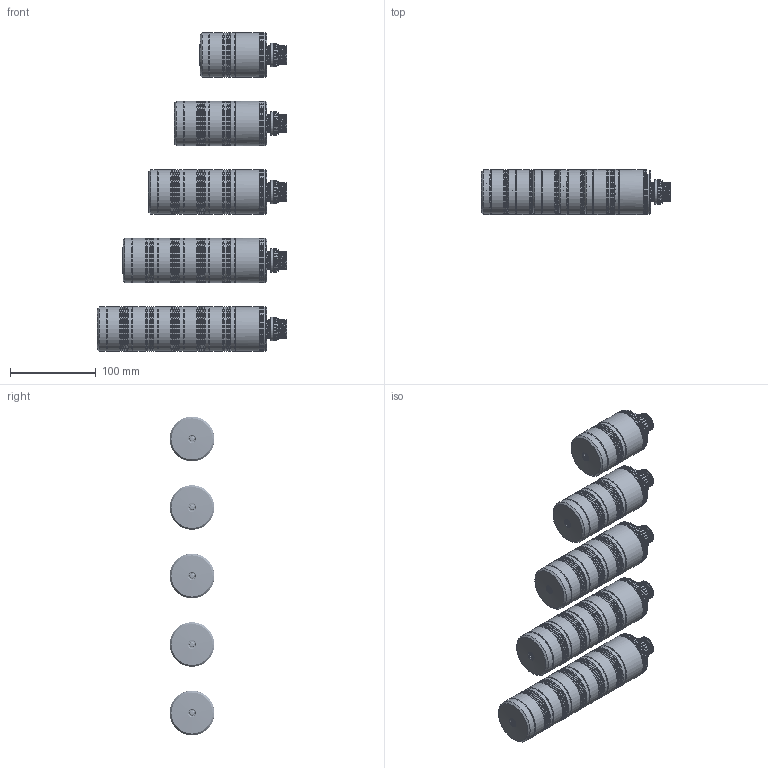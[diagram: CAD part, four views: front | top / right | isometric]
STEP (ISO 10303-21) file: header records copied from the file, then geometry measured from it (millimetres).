
FILE_DESCRIPTION(/* description */ (''),/* implementation_level */ '2;1');
FILE_NAME(/* name */ 'M5S-302W-prt.stp',/* time_stamp */ '2019-10-19T17:43:09+08:00',/* author */ (''),/* organization */ (''),/* preprocessor_version */ 'ST-DEVELOPER v14',/* originating_system */ 'SIEMENS PLM Software NX 8.0',/* authorisation */ '');
FILE_SCHEMA (('AUTOMOTIVE_DESIGN { 1 0 10303 214 3 1 1 1 }'));
Length unit declared in the file: millimetre
Products named in the file (1): M5S-302W-prt
Bounding box: 221.68 x 52 x 372 mm (x, y, z)
Volume: 1444587.7 mm3; surface area: 311812.2 mm2
Topology: 45 solids, 60 shells, 1500 faces, 4620 edges, 3295 vertices
Faces by surface type: plane 320, cone 320, cylinder 315, bspline 310, torus 230, sphere 5
Full cylindrical faces by diameter (mm): 4.2 x5, 5.6 x5, 6 x5, 8 x5, 12 x5, 16.822 x5, 22.5 x5, 48.8 x30, 49 x5, 49.1 x15, 50 x5, 51 x10, 52 x95
Entity records: 90638 total; most frequent: CARTESIAN_POINT 55437, ORIENTED_EDGE 7910, DIRECTION 5762, EDGE_CURVE 3955, VERTEX_POINT 3080, AXIS2_PLACEMENT_3D 2656, EDGE_LOOP 2055, B_SPLINE_CURVE_WITH_KNOTS 2030
